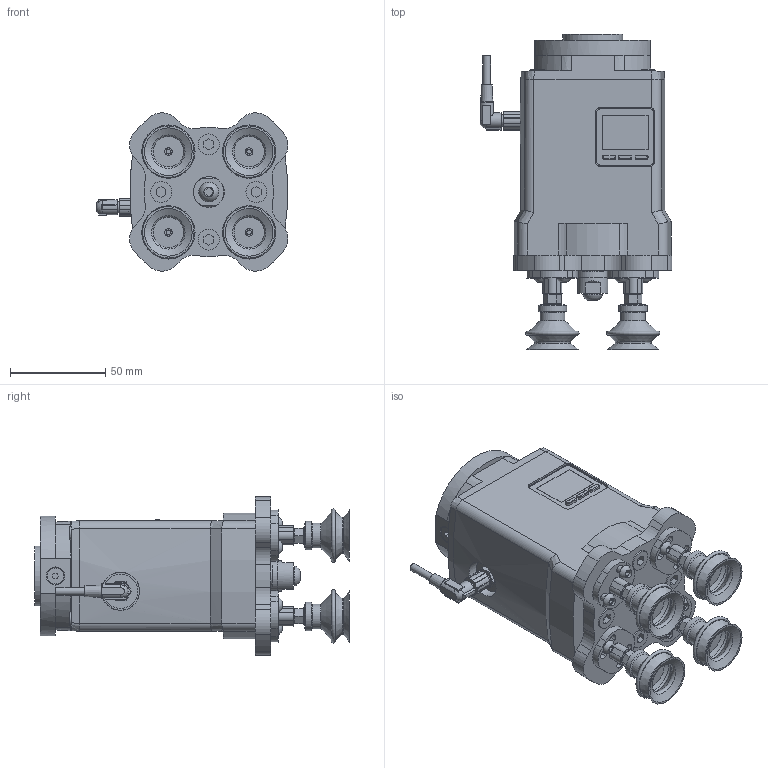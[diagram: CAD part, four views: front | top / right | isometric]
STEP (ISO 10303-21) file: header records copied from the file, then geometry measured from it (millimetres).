
FILE_DESCRIPTION(/* description */ ('STEP AP242','CAx-IF Rec.Pracs.---Representation and Presentation of Product Manufacturing Information (PMI)---4.0---2014-10-13','CAx-IF Rec.Pracs.---3D Tessellated Geometry---0.4---2014-09-14','2;1'),/* implementation_level */ '2;1');
FILE_NAME(/* name */ 'ZXPE5A011P-25BN-CE(0000_30303030_0)',/* time_stamp */ '2025-12-02T12:52:13+01:00',/* author */ ('License CC BY-ND 4.0'),/* organization */ ('CADENAS'),/* preprocessor_version */ 'ST-DEVELOPER v20',/* originating_system */ 'PARTsolutions',/* authorisation */ ' ');
FILE_SCHEMA (('AP242_MANAGED_MODEL_BASED_3D_ENGINEERING_MIM_LF { 1 0 10303 442 1 1 4 }'));
Length unit declared in the file: millimetre
Products named in the file (11): ZXPE5A011P-25BN-CE(0000_30303030_0); ZXPE5N011P-CE(0); RMH-A00-11-A; ZXPE5-PFL1-A_PLATEA(0); ZXPE5-PFL1-A_PLATEB(0); ZPT3-AS6_20_32; ZP25BN_20_32_PAD; ZXPE5-PFL1-A_BOLT1; ZXPE5-PFL1-A_ADAPTER(0); M6x8+M-6G; M6x10_ZXPE5
Assembly tree (29 placements, depth 2):
  ZXPE5A011P-25BN-CE(0000_30303030_0)
    ZXPE5N011P-CE(0)
    RMH-A00-11-A
    ZXPE5-PFL1-A_PLATEA(0)
    ZXPE5-PFL1-A_PLATEB(0)  x4
    ZPT3-AS6_20_32  x4
    ZP25BN_20_32_PAD  x4
    ZXPE5-PFL1-A_BOLT1  x8
    ZXPE5-PFL1-A_ADAPTER(0)
    M6x8+M-6G
    M6x10_ZXPE5  x4
Bounding box: 100.8 x 165.5 x 83.19 mm (x, y, z)
Volume: 546719.4 mm3; surface area: 90042.4 mm2
Topology: 29 solids, 29 shells, 1051 faces, 2310 edges, 1476 vertices
Faces by surface type: plane 543, cylinder 283, cone 155, torus 48, bspline 12, sphere 10
Full cylindrical faces by diameter (mm): 0.6 x8, 2.459 x4, 2.5 x4, 3.242 x8, 4 x13, 4.9 x4, 4.917 x11, 5 x2, 5.95 x1, 6 x11, 6.2 x1, 6.5 x8, 6.6 x8, 6.9 x1, 7 x4, 7.6 x8, 8 x6, 8.5 x2, 8.566 x1, 9 x2, 9.728 x1, 10.5 x1, 11 x8, 13 x4, 14 x1, 15 x4, 16 x1, 16.3 x1, 18 x1, 20 x1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
Entity records: 18296 total; most frequent: CARTESIAN_POINT 3500, DIRECTION 3055, ORIENTED_EDGE 2648, EDGE_CURVE 1324, AXIS2_PLACEMENT_3D 1189, VERTEX_POINT 941, EDGE_LOOP 907, FACE_BOUND 907
